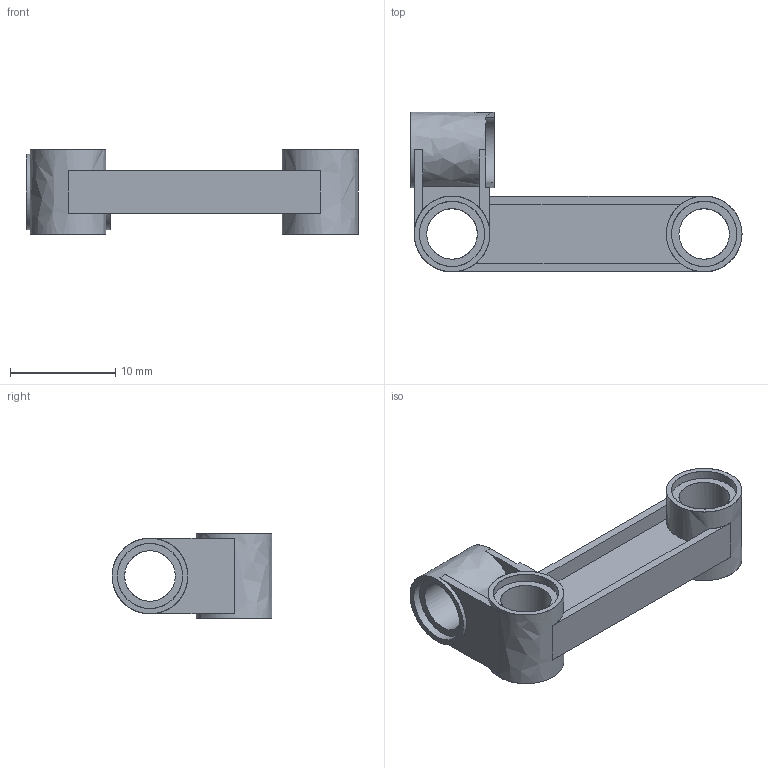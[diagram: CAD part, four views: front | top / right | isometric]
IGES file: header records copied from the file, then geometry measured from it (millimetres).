
Start section: C
Global section: file name: Black_6019986_AVV.iges; native system: By Siemens PLM Incorporated; preprocessor: XPlus GENERIC/IGES 26.1.183; author: Author; organization: Title; date: 20250721.234910; units: millimetre
Bounding box: 31.6 x 15.2 x 8 mm (x, y, z)
Surface area: 1630.3 mm2 (no closed solid volume)
Topology: 0 solids, 0 shells, 54 faces, 302 edges, 302 vertices
Faces by surface type: bspline 54
